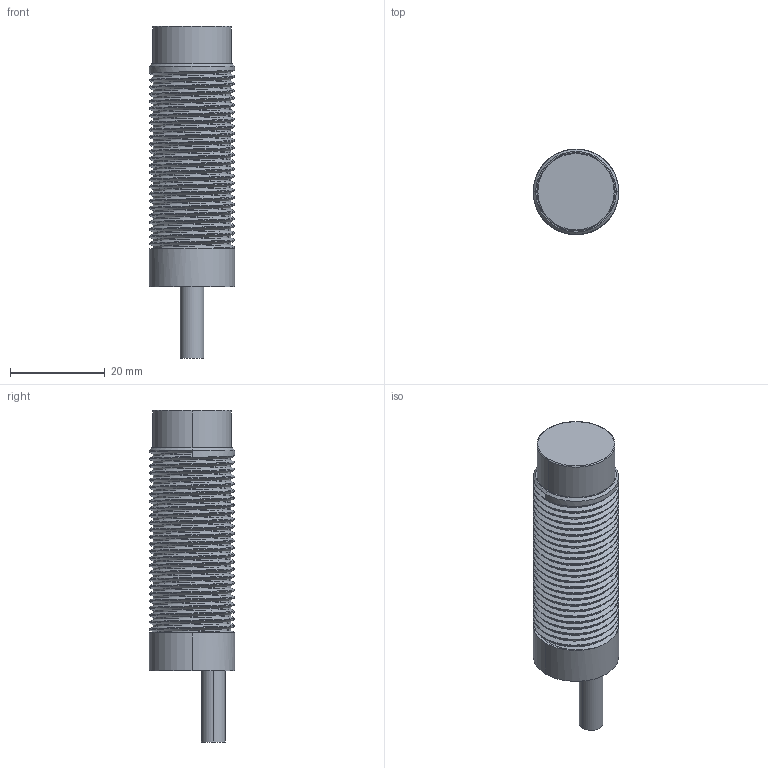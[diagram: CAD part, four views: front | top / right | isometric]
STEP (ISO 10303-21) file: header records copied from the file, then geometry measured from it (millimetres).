
FILE_DESCRIPTION (( 'STEP AP214' ), '1' );
FILE_NAME ('3.BIS5N56.STEP', '2024-11-11T08:44:28', ( '' ), ( '' ), 'SwSTEP 2.0', 'SolidWorks 2022', '' );
FILE_SCHEMA (( 'AUTOMOTIVE_DESIGN' ));
Length unit declared in the file: millimetre
Products named in the file (1): 3.BIS5N56
Bounding box: 18 x 18 x 70 mm (x, y, z)
Volume: 13017 mm3; surface area: 4988.4 mm2
Topology: 1 solids, 1 shells, 70 faces, 191 edges, 125 vertices
Faces by surface type: cylinder 57, plane 6, bspline 3, torus 2, cone 2
Entity records: 12555 total; most frequent: CARTESIAN_POINT 10959, ORIENTED_EDGE 382, DIRECTION 238, EDGE_CURVE 191, VERTEX_POINT 125, AXIS2_PLACEMENT_3D 89, EDGE_LOOP 72, ADVANCED_FACE 70
